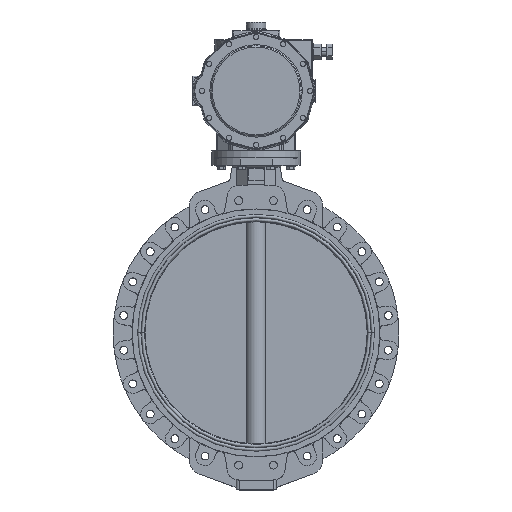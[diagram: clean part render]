
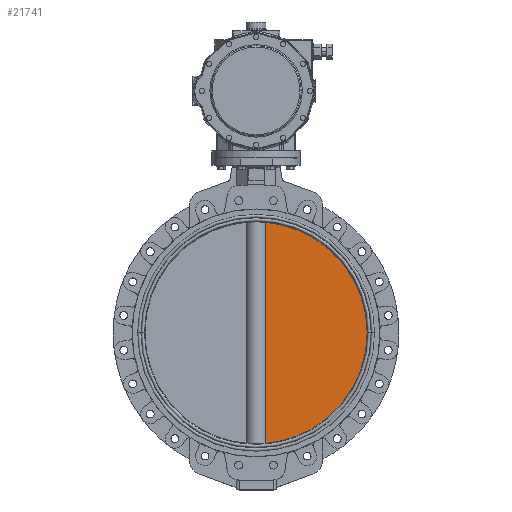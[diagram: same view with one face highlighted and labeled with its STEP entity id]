
A CAD part, top view. The second image highlights one B-rep face of the part: STEP entity #21741.
In plain terms, the highlighted planar face has unit normal (0, 0, 1).
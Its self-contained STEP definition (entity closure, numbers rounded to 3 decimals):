
#4543 = VERTEX_POINT ( 'NONE', #14177 ) ;
#4787 = EDGE_LOOP ( 'NONE', ( #30483, #6941, #35153 ) ) ;
#5898 = CARTESIAN_POINT ( 'NONE',  ( 0., 0., 12.5 ) ) ;
#6083 = LINE ( 'NONE', #10382, #21382 ) ;
#6941 = ORIENTED_EDGE ( 'NONE', *, *, #42475, .T. ) ;
#9693 = DIRECTION ( 'NONE',  ( -1., 0., 0. ) ) ;
#10382 = CARTESIAN_POINT ( 'NONE',  ( 32.692, 672.001, 12.5 ) ) ;
#13431 = DIRECTION ( 'NONE',  ( 0., 0., -1. ) ) ;
#14177 = CARTESIAN_POINT ( 'NONE',  ( 32.692, -373.572, 12.5 ) ) ;
#17539 = EDGE_CURVE ( 'NONE', #44813, #4543, #40718, .T. ) ;
#17925 = PLANE ( 'NONE',  #19687 ) ;
#19687 = AXIS2_PLACEMENT_3D ( 'NONE', #33501, #47635, #41042 ) ;
#21054 = EDGE_CURVE ( 'NONE', #24382, #44813, #48020, .T. ) ;
#21382 = VECTOR ( 'NONE', #48177, 1000. ) ;
#21741 = ADVANCED_FACE ( 'NONE', ( #47877 ), #17925, .F. ) ;
#21844 = CARTESIAN_POINT ( 'NONE',  ( 375., 0., 12.5 ) ) ;
#24382 = VERTEX_POINT ( 'NONE', #26756 ) ;
#24706 = AXIS2_PLACEMENT_3D ( 'NONE', #5898, #13431, #28340 ) ;
#24857 = CARTESIAN_POINT ( 'NONE',  ( 0., 0., 12.5 ) ) ;
#26756 = CARTESIAN_POINT ( 'NONE',  ( 32.692, 373.572, 12.5 ) ) ;
#28340 = DIRECTION ( 'NONE',  ( -1., 0., 0. ) ) ;
#30483 = ORIENTED_EDGE ( 'NONE', *, *, #21054, .F. ) ;
#32141 = DIRECTION ( 'NONE',  ( 0., 0., -1. ) ) ;
#33501 = CARTESIAN_POINT ( 'NONE',  ( 32.692, 672.001, 12.5 ) ) ;
#35153 = ORIENTED_EDGE ( 'NONE', *, *, #17539, .F. ) ;
#36069 = AXIS2_PLACEMENT_3D ( 'NONE', #24857, #32141, #9693 ) ;
#40718 = CIRCLE ( 'NONE', #36069, 375. ) ;
#41042 = DIRECTION ( 'NONE',  ( -1., 0., 0. ) ) ;
#42475 = EDGE_CURVE ( 'NONE', #24382, #4543, #6083, .T. ) ;
#44813 = VERTEX_POINT ( 'NONE', #21844 ) ;
#47635 = DIRECTION ( 'NONE',  ( 0., 0., -1. ) ) ;
#47877 = FACE_OUTER_BOUND ( 'NONE', #4787, .T. ) ;
#48020 = CIRCLE ( 'NONE', #24706, 375. ) ;
#48177 = DIRECTION ( 'NONE',  ( 0., -1., 0. ) ) ;
